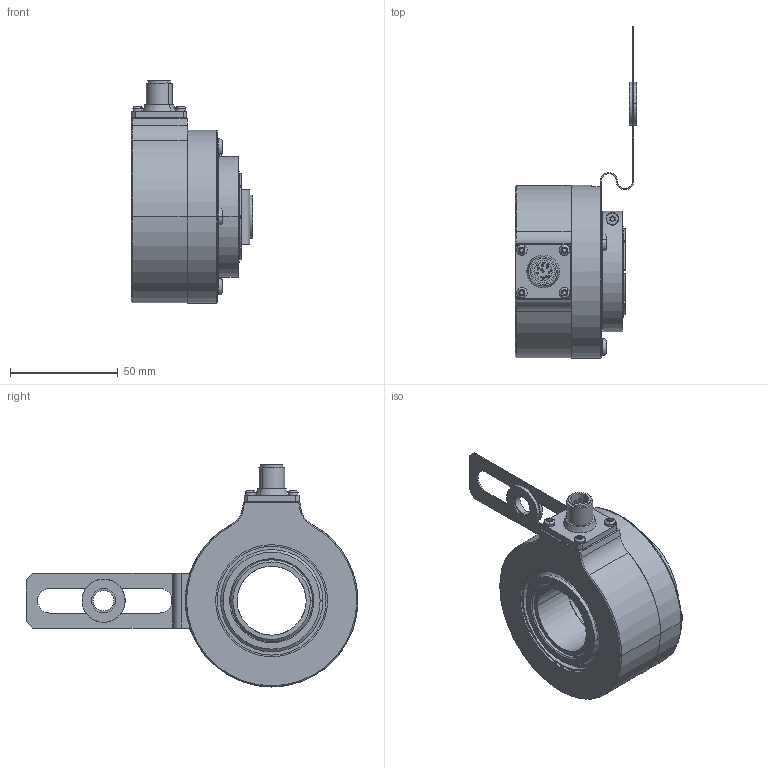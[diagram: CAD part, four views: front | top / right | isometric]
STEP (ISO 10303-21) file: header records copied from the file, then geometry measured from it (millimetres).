
FILE_DESCRIPTION (( 'STEP AP203' ), '1' );
FILE_NAME ('K80I.OXX.XXXXX.XH2D832.6XRC2.step', '2025-12-09T13:28:26', ( '' ), ( '' ), 'SwSTEP 2.0', 'SolidWorks 2021', '' );
FILE_SCHEMA (( 'CONFIG_CONTROL_DESIGN' ));
Length unit declared in the file: millimetre
Products named in the file (1): K80I.OXX.XXXXX.XH2D832.6XRC2
Bounding box: 56.5 x 154.07 x 103.08 mm (x, y, z)
Volume: 192370.1 mm3; surface area: 78210.5 mm2
Topology: 8 solids, 8 shells, 710 faces, 1878 edges, 1209 vertices
Faces by surface type: cylinder 316, plane 252, bspline 76, cone 40, sphere 16, torus 10
Entity records: 27239 total; most frequent: CARTESIAN_POINT 9734, ORIENTED_EDGE 3676, DIRECTION 3608, EDGE_CURVE 1838, AXIS2_PLACEMENT_3D 1361, VERTEX_POINT 1193, LINE 886, VECTOR 886
